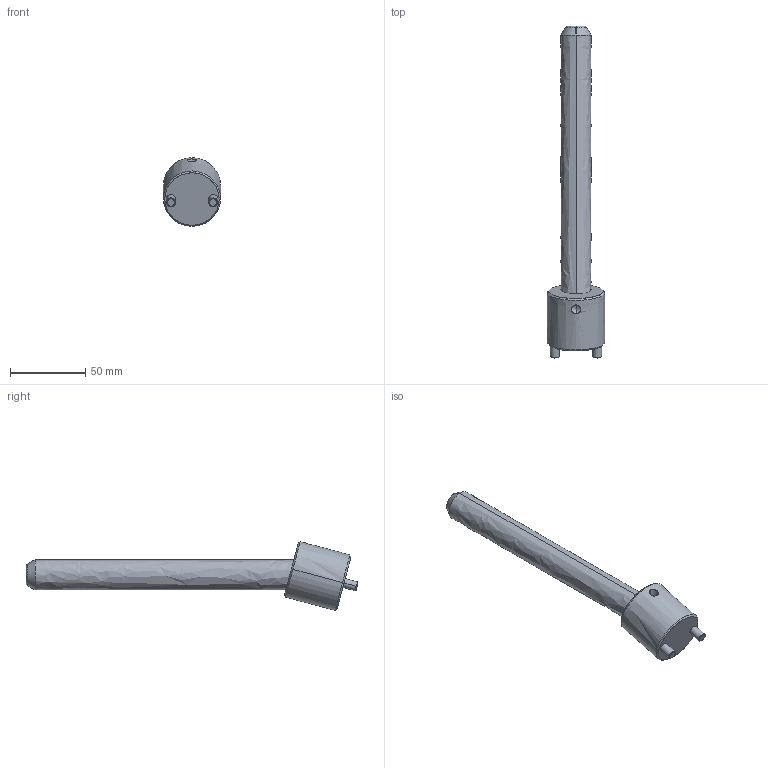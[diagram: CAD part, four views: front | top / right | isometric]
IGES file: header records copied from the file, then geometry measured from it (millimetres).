
Start section: START RECORD GO HERE.
Global section: file name: CI1520175.igs; native system: DASSAULT SYSTEMES CATIA V5 R20 - www.3ds.com; preprocessor: CATIA Version 5 Release 20 ; author: r.borello; organization: CFTORINO; date: 20190621.161730; units: millimetre
Bounding box: 38 x 220.15 x 45.51 mm (x, y, z)
Surface area: 22145.9 mm2 (no closed solid volume)
Topology: 0 solids, 0 shells, 39 faces, 162 edges, 160 vertices
Faces by surface type: revolution 32, plane 7
